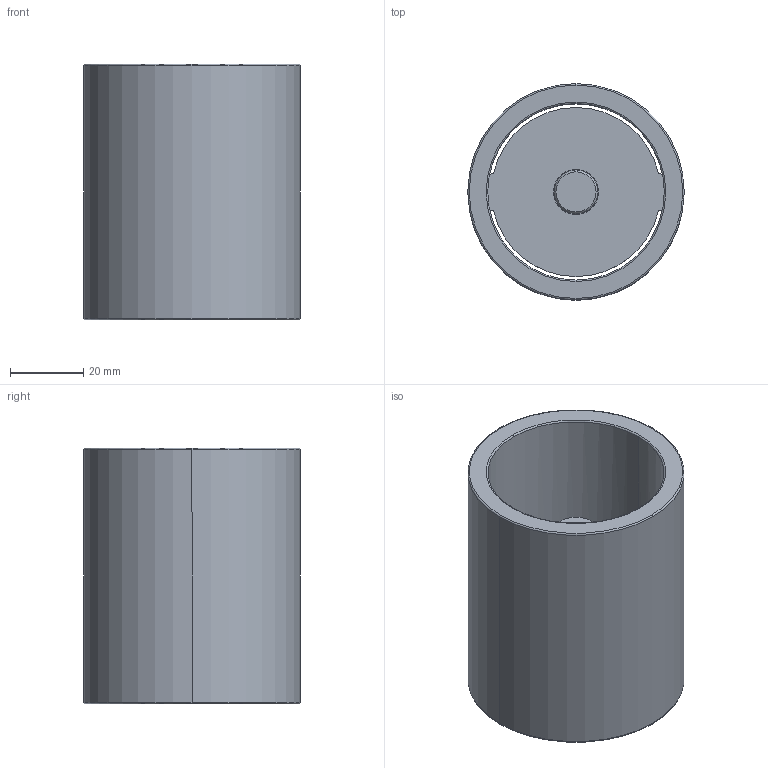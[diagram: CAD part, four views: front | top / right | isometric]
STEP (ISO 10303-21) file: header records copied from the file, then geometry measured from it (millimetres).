
FILE_DESCRIPTION((''),'2;1');
FILE_NAME('C11_048_070.stp','2009-01-12T09:44:27',(''),(''),'Mechanical Desktop 2009','Mechanical Desktop 2009',', , ');
FILE_SCHEMA(('CONFIG_CONTROL_DESIGN'));
Length unit declared in the file: millimetre
Products named in the file (2): Product; blmdl1
Assembly tree (1 placements, depth 2):
  Product
    blmdl1
Bounding box: 59.25 x 59.25 x 70 mm (x, y, z)
Volume: 71719.9 mm3; surface area: 31387.3 mm2
Topology: 3 solids, 3 shells, 44 faces, 110 edges, 74 vertices
Faces by surface type: cylinder 16, plane 16, torus 10, cone 2
Entity records: 1507 total; most frequent: CARTESIAN_POINT 274, DIRECTION 266, ORIENTED_EDGE 220, AXIS2_PLACEMENT_3D 114, EDGE_CURVE 110, VERTEX_POINT 74, CIRCLE 68, EDGE_LOOP 50
